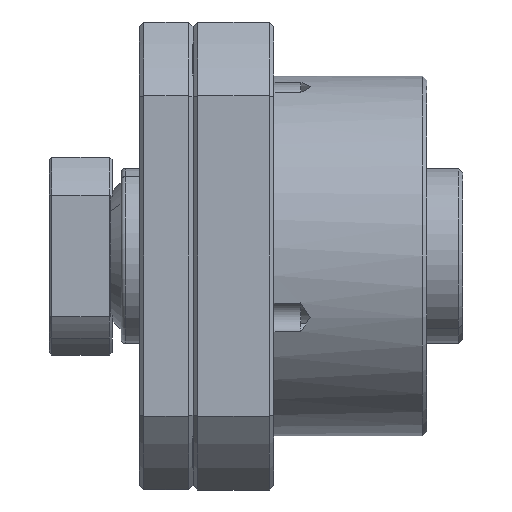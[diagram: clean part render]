
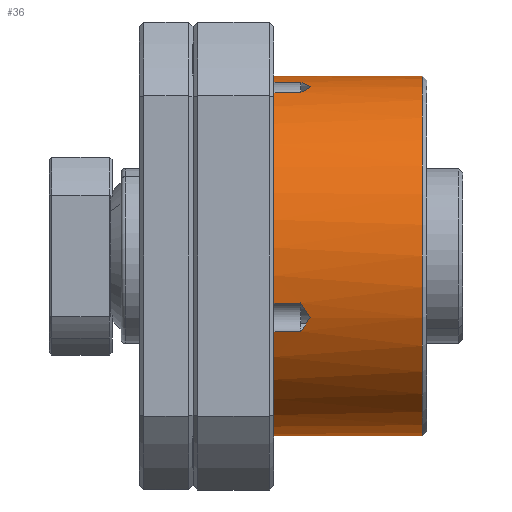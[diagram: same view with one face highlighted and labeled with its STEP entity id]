
A CAD part, front view. The second image highlights one B-rep face of the part: STEP entity #36.
In plain terms, the highlighted cylindrical face has radius 20 mm (diameter 40 mm), a partial arc.
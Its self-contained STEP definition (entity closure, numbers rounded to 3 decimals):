
#9 = VECTOR ( 'NONE', #5972, 1000. ) ;
#32 = ORIENTED_EDGE ( 'NONE', *, *, #1249, .T. ) ;
#34 = ORIENTED_EDGE ( 'NONE', *, *, #7124, .F. ) ;
#36 = ADVANCED_FACE ( 'NONE', ( #5761 ), #4073, .T. ) ;
#47 = CARTESIAN_POINT ( 'NONE',  ( 12., -19.3, -5.244 ) ) ;
#205 = CARTESIAN_POINT ( 'NONE',  ( 12.671, -6.316, 18.985 ) ) ;
#208 = ORIENTED_EDGE ( 'NONE', *, *, #1830, .T. ) ;
#257 = ORIENTED_EDGE ( 'NONE', *, *, #1037, .T. ) ;
#266 = VECTOR ( 'NONE', #4750, 1000. ) ;
#267 = CARTESIAN_POINT ( 'NONE',  ( 12., -5.244, 19.3 ) ) ;
#283 = AXIS2_PLACEMENT_3D ( 'NONE', #798, #4710, #1356 ) ;
#352 = ORIENTED_EDGE ( 'NONE', *, *, #4117, .T. ) ;
#415 = EDGE_CURVE ( 'NONE', #1410, #3276, #1678, .T. ) ;
#482 = ORIENTED_EDGE ( 'NONE', *, *, #4258, .F. ) ;
#532 = CIRCLE ( 'NONE', #2993, 20. ) ;
#556 = CARTESIAN_POINT ( 'NONE',  ( 12.671, -18.985, -6.316 ) ) ;
#700 = LINE ( 'NONE', #3912, #5158 ) ;
#709 = VERTEX_POINT ( 'NONE', #7120 ) ;
#798 = CARTESIAN_POINT ( 'NONE',  ( 9., 0., 0. ) ) ;
#850 = B_SPLINE_CURVE_WITH_KNOTS ( 'NONE', 3,
 ( #1096, #6142, #556, #4471 ),
 .UNSPECIFIED., .F., .F.,
 ( 4, 4 ),
 ( 0.002, 0.004 ),
 .UNSPECIFIED. ) ;
#862 = CARTESIAN_POINT ( 'NONE',  ( 25.5, 0., 20. ) ) ;
#892 = AXIS2_PLACEMENT_3D ( 'NONE', #2561, #1495, #5941 ) ;
#1037 = EDGE_CURVE ( 'NONE', #1578, #4125, #4753, .T. ) ;
#1060 = CIRCLE ( 'NONE', #283, 20. ) ;
#1074 = VERTEX_POINT ( 'NONE', #1127 ) ;
#1096 = CARTESIAN_POINT ( 'NONE',  ( 12., -19.3, -5.244 ) ) ;
#1127 = CARTESIAN_POINT ( 'NONE',  ( 9., -5.244, 19.3 ) ) ;
#1228 = CARTESIAN_POINT ( 'NONE',  ( 6., -18.156, -8.389 ) ) ;
#1249 = EDGE_CURVE ( 'NONE', #1074, #4806, #4359, .T. ) ;
#1266 = CARTESIAN_POINT ( 'NONE',  ( 25.5, 0., 0. ) ) ;
#1356 = DIRECTION ( 'NONE',  ( 0., 0., 1. ) ) ;
#1383 = B_SPLINE_CURVE_WITH_KNOTS ( 'NONE', 3,
 ( #4141, #6350, #205, #4732 ),
 .UNSPECIFIED., .F., .F.,
 ( 4, 4 ),
 ( 0.002, 0.004 ),
 .UNSPECIFIED. ) ;
#1402 = CARTESIAN_POINT ( 'NONE',  ( 6., -5.244, 19.3 ) ) ;
#1410 = VERTEX_POINT ( 'NONE', #2722 ) ;
#1495 = DIRECTION ( 'NONE',  ( -1., 0., 0. ) ) ;
#1578 = VERTEX_POINT ( 'NONE', #2518 ) ;
#1670 = CARTESIAN_POINT ( 'NONE',  ( 13.006, -18.794, -6.84 ) ) ;
#1678 = LINE ( 'NONE', #2592, #9 ) ;
#1706 = ORIENTED_EDGE ( 'NONE', *, *, #415, .T. ) ;
#1710 = CIRCLE ( 'NONE', #5125, 20. ) ;
#1736 = CARTESIAN_POINT ( 'NONE',  ( 12.335, -7.882, 18.39 ) ) ;
#1766 = DIRECTION ( 'NONE',  ( -1., 0., 0. ) ) ;
#1828 = DIRECTION ( 'NONE',  ( 0., 0., 1. ) ) ;
#1830 = EDGE_CURVE ( 'NONE', #5581, #1841, #700, .T. ) ;
#1841 = VERTEX_POINT ( 'NONE', #47 ) ;
#1849 = CARTESIAN_POINT ( 'NONE',  ( 9., 0., 0. ) ) ;
#2063 = ORIENTED_EDGE ( 'NONE', *, *, #7158, .T. ) ;
#2187 = DIRECTION ( 'NONE',  ( -1., 0., 0. ) ) ;
#2231 = EDGE_LOOP ( 'NONE', ( #4847, #3618, #352, #34, #32, #6343, #3265, #1706, #5958, #208, #5862, #257, #2063, #482 ) ) ;
#2232 = CARTESIAN_POINT ( 'NONE',  ( 12., -18.156, -8.389 ) ) ;
#2403 = DIRECTION ( 'NONE',  ( 0., 0., 1. ) ) ;
#2518 = CARTESIAN_POINT ( 'NONE',  ( 13.006, -18.794, -6.84 ) ) ;
#2539 = B_SPLINE_CURVE_WITH_KNOTS ( 'NONE', 3,
 ( #2817, #3390, #1736, #5639 ),
 .UNSPECIFIED., .F., .F.,
 ( 4, 4 ),
 ( 0., 0.002 ),
 .UNSPECIFIED. ) ;
#2561 = CARTESIAN_POINT ( 'NONE',  ( -94.469, 0., 0. ) ) ;
#2592 = CARTESIAN_POINT ( 'NONE',  ( 6., -8.389, 18.156 ) ) ;
#2702 = EDGE_CURVE ( 'NONE', #4806, #2973, #1383, .T. ) ;
#2722 = CARTESIAN_POINT ( 'NONE',  ( 12., -8.389, 18.156 ) ) ;
#2733 = VERTEX_POINT ( 'NONE', #5856 ) ;
#2739 = EDGE_CURVE ( 'NONE', #2733, #2828, #1710, .T. ) ;
#2750 = CARTESIAN_POINT ( 'NONE',  ( -94.469, 0., -20. ) ) ;
#2817 = CARTESIAN_POINT ( 'NONE',  ( 13.006, -6.84, 18.794 ) ) ;
#2828 = VERTEX_POINT ( 'NONE', #862 ) ;
#2945 = CIRCLE ( 'NONE', #3822, 20. ) ;
#2973 = VERTEX_POINT ( 'NONE', #6561 ) ;
#2993 = AXIS2_PLACEMENT_3D ( 'NONE', #1849, #5753, #2403 ) ;
#3215 = VERTEX_POINT ( 'NONE', #4490 ) ;
#3265 = ORIENTED_EDGE ( 'NONE', *, *, #7087, .T. ) ;
#3276 = VERTEX_POINT ( 'NONE', #3962 ) ;
#3293 = LINE ( 'NONE', #2750, #6102 ) ;
#3305 = VERTEX_POINT ( 'NONE', #5671 ) ;
#3324 = CARTESIAN_POINT ( 'NONE',  ( 12.671, -18.603, -7.365 ) ) ;
#3327 = CARTESIAN_POINT ( 'NONE',  ( 12., -18.156, -8.389 ) ) ;
#3371 = DIRECTION ( 'NONE',  ( 1., 0., 0. ) ) ;
#3390 = CARTESIAN_POINT ( 'NONE',  ( 12.671, -7.365, 18.603 ) ) ;
#3618 = ORIENTED_EDGE ( 'NONE', *, *, #2739, .T. ) ;
#3822 = AXIS2_PLACEMENT_3D ( 'NONE', #5099, #1766, #5668 ) ;
#3887 = DIRECTION ( 'NONE',  ( -1., 0., 0. ) ) ;
#3912 = CARTESIAN_POINT ( 'NONE',  ( 6., -19.3, -5.244 ) ) ;
#3962 = CARTESIAN_POINT ( 'NONE',  ( 9., -8.389, 18.156 ) ) ;
#4073 = CYLINDRICAL_SURFACE ( 'NONE', #892, 20. ) ;
#4117 = EDGE_CURVE ( 'NONE', #2828, #3215, #6247, .T. ) ;
#4125 = VERTEX_POINT ( 'NONE', #3327 ) ;
#4141 = CARTESIAN_POINT ( 'NONE',  ( 12., -5.244, 19.3 ) ) ;
#4258 = EDGE_CURVE ( 'NONE', #709, #3305, #1060, .T. ) ;
#4359 = LINE ( 'NONE', #1402, #266 ) ;
#4471 = CARTESIAN_POINT ( 'NONE',  ( 13.006, -18.794, -6.84 ) ) ;
#4490 = CARTESIAN_POINT ( 'NONE',  ( 9., 0., 20. ) ) ;
#4710 = DIRECTION ( 'NONE',  ( -1., 0., 0. ) ) ;
#4732 = CARTESIAN_POINT ( 'NONE',  ( 13.006, -6.84, 18.794 ) ) ;
#4750 = DIRECTION ( 'NONE',  ( 1., 0., 0. ) ) ;
#4753 = B_SPLINE_CURVE_WITH_KNOTS ( 'NONE', 3,
 ( #1670, #3324, #5003, #2232 ),
 .UNSPECIFIED., .F., .F.,
 ( 4, 4 ),
 ( 0., 0.002 ),
 .UNSPECIFIED. ) ;
#4806 = VERTEX_POINT ( 'NONE', #267 ) ;
#4847 = ORIENTED_EDGE ( 'NONE', *, *, #6564, .F. ) ;
#4913 = EDGE_CURVE ( 'NONE', #5581, #3276, #532, .T. ) ;
#5003 = CARTESIAN_POINT ( 'NONE',  ( 12.335, -18.39, -7.882 ) ) ;
#5099 = CARTESIAN_POINT ( 'NONE',  ( 9., 0., 0. ) ) ;
#5125 = AXIS2_PLACEMENT_3D ( 'NONE', #1266, #5171, #1828 ) ;
#5158 = VECTOR ( 'NONE', #3371, 1000. ) ;
#5171 = DIRECTION ( 'NONE',  ( -1., 0., 0. ) ) ;
#5581 = VERTEX_POINT ( 'NONE', #5985 ) ;
#5639 = CARTESIAN_POINT ( 'NONE',  ( 12., -8.389, 18.156 ) ) ;
#5668 = DIRECTION ( 'NONE',  ( 0., 0., 1. ) ) ;
#5671 = CARTESIAN_POINT ( 'NONE',  ( 9., -18.156, -8.389 ) ) ;
#5753 = DIRECTION ( 'NONE',  ( -1., 0., 0. ) ) ;
#5761 = FACE_OUTER_BOUND ( 'NONE', #2231, .T. ) ;
#5856 = CARTESIAN_POINT ( 'NONE',  ( 25.5, 0., -20. ) ) ;
#5862 = ORIENTED_EDGE ( 'NONE', *, *, #6557, .T. ) ;
#5941 = DIRECTION ( 'NONE',  ( 0., 0., 1. ) ) ;
#5958 = ORIENTED_EDGE ( 'NONE', *, *, #4913, .F. ) ;
#5972 = DIRECTION ( 'NONE',  ( -1., 0., 0. ) ) ;
#5985 = CARTESIAN_POINT ( 'NONE',  ( 9., -19.3, -5.244 ) ) ;
#6060 = VECTOR ( 'NONE', #2187, 1000. ) ;
#6097 = CARTESIAN_POINT ( 'NONE',  ( -94.469, 0., 20. ) ) ;
#6102 = VECTOR ( 'NONE', #3887, 1000. ) ;
#6142 = CARTESIAN_POINT ( 'NONE',  ( 12.335, -19.154, -5.782 ) ) ;
#6247 = LINE ( 'NONE', #6097, #6060 ) ;
#6343 = ORIENTED_EDGE ( 'NONE', *, *, #2702, .T. ) ;
#6350 = CARTESIAN_POINT ( 'NONE',  ( 12.335, -5.782, 19.154 ) ) ;
#6557 = EDGE_CURVE ( 'NONE', #1841, #1578, #850, .T. ) ;
#6561 = CARTESIAN_POINT ( 'NONE',  ( 13.006, -6.84, 18.794 ) ) ;
#6564 = EDGE_CURVE ( 'NONE', #2733, #709, #3293, .T. ) ;
#6810 = DIRECTION ( 'NONE',  ( -1., 0., 0. ) ) ;
#7071 = VECTOR ( 'NONE', #6810, 1000. ) ;
#7087 = EDGE_CURVE ( 'NONE', #2973, #1410, #2539, .T. ) ;
#7120 = CARTESIAN_POINT ( 'NONE',  ( 9., 0., -20. ) ) ;
#7124 = EDGE_CURVE ( 'NONE', #1074, #3215, #2945, .T. ) ;
#7158 = EDGE_CURVE ( 'NONE', #4125, #3305, #7240, .T. ) ;
#7240 = LINE ( 'NONE', #1228, #7071 ) ;
